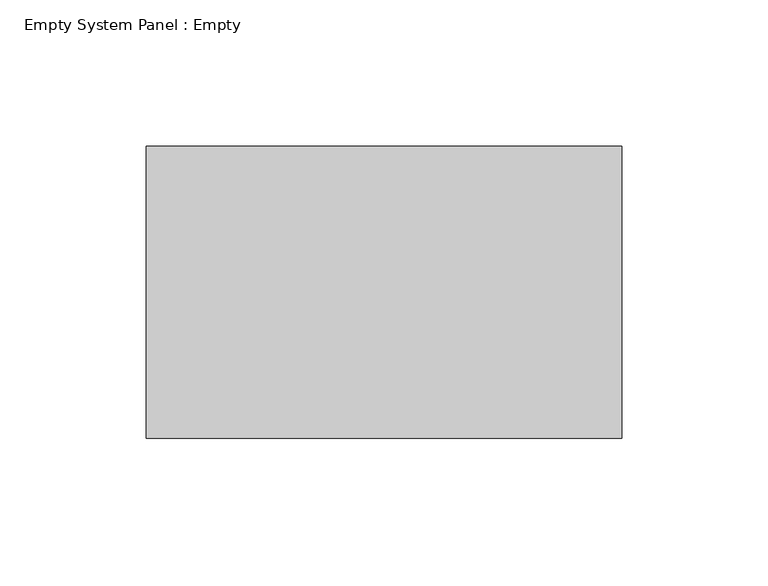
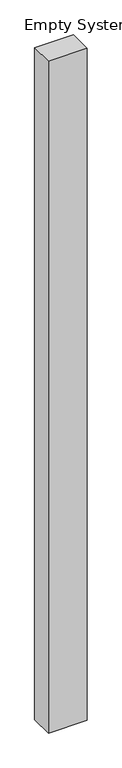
"""IFC4 building model written with IfcOpenShell, lengths in millimetres: plate geometry, Empty System Panel : Empty."""

from ifc_helpers import new_model, si_unit, origin, origin_with_axes, place, context, project, spatial, polyline, outline, extrude, source, transform, mapped, element, save


def empty_system_panel_empty_de494967(model_context):
    return source(origin(), model_context, "Body", "SweptSolid", [
        extrude(outline(polyline([(81.5, -50.0), (-81.5, -50.0), (-81.5, 50.0), (81.5, 50.0), (81.5, -50.0)])), origin_with_axes(), (0.0, 0.0, 1.0), 3000.0),
    ])


if __name__ == "__main__":
    model = new_model("IFC4")
    model_context = context("Model", 3, world=origin())
    ifc_project = project(units=[si_unit("LENGTHUNIT", "METRE", prefix="MILLI")], contexts=[model_context])
    site = spatial("IfcSite", under=ifc_project)
    building = spatial("IfcBuilding", under=site)
    placement = place(None, origin())
    empty_system_panel_empty_shape = empty_system_panel_empty_de494967(model_context)
    element("IfcPlate", 1, ObjectType="Empty System Panel : Empty", at=placement, inside=building, context=model_context, shape_type="MappedRepresentation", body=[
        mapped(empty_system_panel_empty_shape, transform((0.0, 0.0, 0.0), x_axis=(1.0, 0.0, 0.0), y_axis=(0.0, 1.0, 0.0), z_axis=(0.0, 0.0, 1.0))),
    ])
    save(model, "model.ifc")
